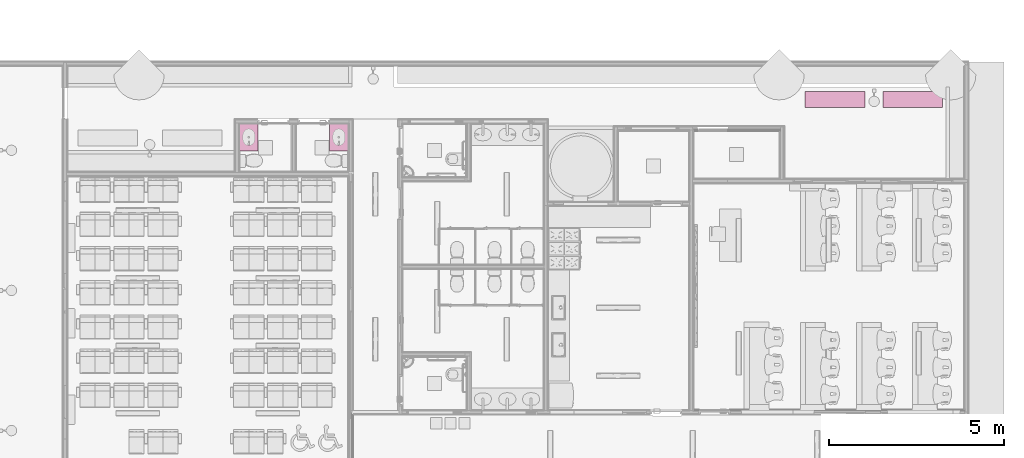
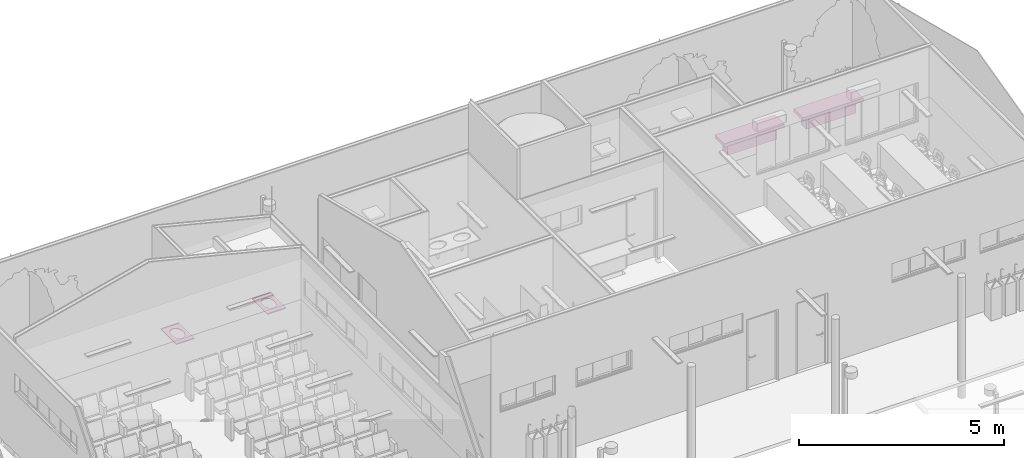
# One storey, part 153 of 155: 4 furnishings.
"""IFC2X3 building model written with IfcOpenShell, lengths in metres."""

import ifcopenshell
import ifcopenshell.guid

model = None  # the IFC model being written
_history = None  # IfcOwnerHistory: only IFC2X3 demands one
_inside = {}  # id of a spatial element -> (the spatial element, [elements in it])
_under = {}  # id of a project, library or spatial element -> (it, [spatial elements below it])
_declared = {}  # id of a project -> (the project, [libraries it declares])
_typed = {}  # id of a type object -> (the type object, [elements of that type])
_made_of = {}  # id of a material, layer set ... -> (it, [elements and type objects made of it])


def new_model(schema):
    """Start an empty IFC model of exactly this schema.

    Asked for "IFC4X3", IfcOpenShell would pick the latest addendum, in which some entities
    have other attributes; the version numbers below select the first issue.
    IFC2X3 requires an IfcOwnerHistory on every rooted entity: one is made here for all.
    """
    global model, _history
    if schema == "IFC4X3":
        model = ifcopenshell.file(schema_version=(4, 3, 0, 0))
    else:
        model = ifcopenshell.file(schema=schema)
    _inside.clear()
    _under.clear()
    _declared.clear()
    _typed.clear()
    _made_of.clear()
    _history = None
    if model.schema == "IFC2X3":
        org = make("IfcOrganization", Name="unknown")
        user = make(
            "IfcPersonAndOrganization",
            ThePerson=make("IfcPerson", FamilyName="unknown"),
            TheOrganization=org,
        )
        app = make(
            "IfcApplication",
            ApplicationDeveloper=org,
            Version="unknown",
            ApplicationFullName="unknown",
            ApplicationIdentifier="unknown",
        )
        _history = make(
            "IfcOwnerHistory",
            OwningUser=user,
            OwningApplication=app,
            ChangeAction="ADDED",
            CreationDate=0,
        )
    return model


def make(cls, **values):
    """One entity of the class cls with the attributes given. An attribute that is None is left unset."""
    return model.create_entity(
        cls, **{name: value for name, value in values.items() if value is not None}
    )


def entity(cls, *values):
    """Any entity or typed value of the class cls, its attributes in the order of the schema. None: left unset."""
    e = model.create_entity(cls)
    for i, value in enumerate(values):
        if value is not None:
            e[i] = value
    return e


def rooted(cls, **values):
    """An entity with a GlobalId (a new one), such as an element, a storey or a relation."""
    return make(cls, GlobalId=ifcopenshell.guid.new(), OwnerHistory=_history, **values)


def si_unit(unit_type, name, prefix=None):
    """IfcSIUnit, for example si_unit("LENGTHUNIT", "METRE", prefix="MILLI")."""
    return make("IfcSIUnit", UnitType=unit_type, Prefix=prefix, Name=name)


def converted_unit(unit_type, name, factor, base, dimensions=None, offset=None):
    """IfcConversionBasedUnit, such as the inch: factor (a typed value) times the base unit."""
    return make(
        "IfcConversionBasedUnit"
        if offset is None
        else "IfcConversionBasedUnitWithOffset",
        ConversionOffset=offset,
        Dimensions=None
        if dimensions is None
        else entity("IfcDimensionalExponents", *dimensions),
        UnitType=unit_type,
        Name=name,
        ConversionFactor=make(
            "IfcMeasureWithUnit", ValueComponent=factor, UnitComponent=base
        ),
    )


def derived_unit(unit_type, elements):
    """IfcDerivedUnit: a product of units, each with its exponent."""
    return make(
        "IfcDerivedUnit",
        Elements=[
            make("IfcDerivedUnitElement", Unit=unit, Exponent=power)
            for unit, power in elements
        ],
        UnitType=unit_type,
    )


def assignment(units):
    """IfcUnitAssignment: the units of a project."""
    return None if units is None else make("IfcUnitAssignment", Units=units)


def point(xyz):
    """IfcCartesianPoint."""
    return None if xyz is None else make("IfcCartesianPoint", Coordinates=xyz)


def direction(xyz):
    """IfcDirection."""
    return None if xyz is None else make("IfcDirection", DirectionRatios=xyz)


def frame(location, z_axis=None, x_axis=None):
    """IfcAxis2Placement3D, a coordinate frame: its origin and axes. An axis left out is left unset."""
    return make(
        "IfcAxis2Placement3D",
        Location=point(location),
        Axis=direction(z_axis),
        RefDirection=direction(x_axis),
    )


def frame_2d(location, x_axis=None):
    """IfcAxis2Placement2D, a coordinate frame in the plane: its origin and x axis."""
    return make(
        "IfcAxis2Placement2D", Location=point(location), RefDirection=direction(x_axis)
    )


def origin():
    """The frame at (0, 0, 0) with its axes left unset."""
    return frame((0.0, 0.0, 0.0))


def origin_2d_with_axis():
    """The frame at (0, 0) in the plane with the x axis (1, 0) written out."""
    return frame_2d((0.0, 0.0), x_axis=(1.0, 0.0))


def place(relative_to, where):
    """IfcLocalPlacement: puts the frame where relative to a parent placement (None: the world)."""
    return make(
        "IfcLocalPlacement", PlacementRelTo=relative_to, RelativePlacement=where
    )


def context(
    kind, dimensions, precision=None, world=None, true_north=None, identifier=None
):
    """IfcGeometricRepresentationContext, for example the 3D "Model" context."""
    return make(
        "IfcGeometricRepresentationContext",
        ContextIdentifier=identifier,
        ContextType=kind,
        CoordinateSpaceDimension=dimensions,
        Precision=precision,
        WorldCoordinateSystem=world,
        TrueNorth=true_north,
    )


def subcontext(parent, identifier, kind, view, scale=None):
    """IfcGeometricRepresentationSubContext, for example "Body" below "Model"."""
    return make(
        "IfcGeometricRepresentationSubContext",
        ContextIdentifier=identifier,
        ContextType=kind,
        ParentContext=parent,
        TargetScale=scale,
        TargetView=view,
    )


def project(units=None, contexts=None):
    """IfcProject with its units and contexts."""
    return rooted(
        "IfcProject",
        Name="project",
        RepresentationContexts=contexts,
        UnitsInContext=assignment(units),
    )


def spatial(cls, under=None, at=None, **own):
    """A site, building, storey or space (cls), placed at a placement, below another one or the project."""
    s = rooted(cls, ObjectPlacement=at, **own)
    if under is not None:
        _under.setdefault(under.id(), (under, []))[1].append(s)
    return s


def polyline(points):
    """IfcPolyline through the points."""
    return make("IfcPolyline", Points=[point(p) for p in points])


def profile(cls, at=None, kind="AREA", **sizes):
    """A parametric profile (cls). Its sizes go by their IFC names, for example OverallWidth=200.0."""
    return make(cls, ProfileType=kind, Position=at, **sizes)


def rectangle(**sizes):
    """IfcRectangleProfileDef."""
    return profile("IfcRectangleProfileDef", **sizes)


def outline(outer, holes=None, kind="AREA"):
    """IfcArbitraryClosedProfileDef: a profile drawn as a closed curve; with holes, ...WithVoids."""
    if holes is None:
        return make("IfcArbitraryClosedProfileDef", ProfileType=kind, OuterCurve=outer)
    return make(
        "IfcArbitraryProfileDefWithVoids",
        ProfileType=kind,
        OuterCurve=outer,
        InnerCurves=holes,
    )


def extrude(swept, where, along, depth):
    """IfcExtrudedAreaSolid: the profile swept, set in the frame where, extruded along a direction by depth."""
    return make(
        "IfcExtrudedAreaSolid",
        SweptArea=swept,
        Position=where,
        ExtrudedDirection=direction(along),
        Depth=depth,
    )


def shape(context_of_items, identifier, shape_type, items):
    """IfcShapeRepresentation: the items that make up one representation, for example the "Body"."""
    return make(
        "IfcShapeRepresentation",
        ContextOfItems=context_of_items,
        RepresentationIdentifier=identifier,
        RepresentationType=shape_type,
        Items=items,
    )


def source(mapping_origin, context_of_items, identifier, shape_type, items):
    """IfcRepresentationMap: a shape defined once, which mapped items show again and again."""
    return make(
        "IfcRepresentationMap",
        MappingOrigin=mapping_origin,
        MappedRepresentation=shape(context_of_items, identifier, shape_type, items),
    )


def transform(
    local_origin,
    x_axis=None,
    y_axis=None,
    z_axis=None,
    scale=None,
    scale2=None,
    scale3=None,
    uniform=True,
):
    """IfcCartesianTransformationOperator3D, or its non-uniform kind. x_axis, y_axis, z_axis: its Axis1, 2, 3."""
    if uniform:
        return make(
            "IfcCartesianTransformationOperator3D",
            Axis1=direction(x_axis),
            Axis2=direction(y_axis),
            LocalOrigin=point(local_origin),
            Scale=scale,
            Axis3=direction(z_axis),
        )
    return make(
        "IfcCartesianTransformationOperator3DnonUniform",
        Axis1=direction(x_axis),
        Axis2=direction(y_axis),
        LocalOrigin=point(local_origin),
        Scale=scale,
        Axis3=direction(z_axis),
        Scale2=scale2,
        Scale3=scale3,
    )


def mapped(mapping_source, mapping_target):
    """IfcMappedItem: shows the shape of a source again, moved by a transform."""
    return make(
        "IfcMappedItem", MappingSource=mapping_source, MappingTarget=mapping_target
    )


def material(Name=None, Category=None):
    """IfcMaterial."""
    return make("IfcMaterial", Name=Name, Category=Category)


def made_of(thing, what):
    """Note that an element or type object is made of a material, layer set ...; save() writes the relation."""
    if what is not None:
        _made_of.setdefault(what.id(), (what, []))[1].append(thing)
    return thing


def type_object(cls, material=None, **own):
    """A type object (cls), such as IfcWallType, which elements share."""
    return made_of(rooted(cls, **own), material)


def type_shapes(of_type, sources):
    """Give a type object the sources (RepresentationMaps) that its elements show as mapped items."""
    of_type.RepresentationMaps = sources


def element(
    cls,
    number,
    at=None,
    inside=None,
    cuts=None,
    type_object=None,
    material=None,
    context=None,
    identifier="Body",
    shape_type=None,
    held_by="IfcProductDefinitionShape",
    body=None,
    shapes=None,
    **own,
):
    """One element of the class cls, such as IfcWall. Its Tag is "e" and its number.

    at: its placement. inside: the storey or other place that contains it. cuts: it is an
    opening in that element (IfcRelVoidsElement). A single representation is given by context,
    identifier, shape_type and body (its items); several are given by shapes. held_by: the class
    of the entity that holds the representations. save() writes the other relations.
    """
    e = rooted(cls, Tag="e%d" % number, ObjectPlacement=at, **own)
    if body is not None:
        shapes = [shape(context, identifier, shape_type, body)]
    if shapes is not None:
        e.Representation = make(held_by, Representations=shapes)
    if inside is not None:
        _inside.setdefault(inside.id(), (inside, []))[1].append(e)
    if cuts is not None:
        rooted(
            "IfcRelVoidsElement", RelatingBuildingElement=cuts, RelatedOpeningElement=e
        )
    if type_object is not None:
        _typed.setdefault(type_object.id(), (type_object, []))[1].append(e)
    return made_of(e, material)


def aggregate(whole, parts):
    """IfcRelAggregates: a whole, such as a stair, and the parts it consists of."""
    return rooted("IfcRelAggregates", RelatingObject=whole, RelatedObjects=parts)


def save(model, path):
    """Write the relations noted so far, then the file.

    IfcRelAggregates (storeys below a building ...), IfcRelContainedInSpatialStructure (elements
    in a storey), IfcRelDefinesByType, IfcRelAssociatesMaterial and IfcRelDeclares: one each for
    every whole, place, type object, material and project.
    """
    for whole, parts in _under.values():
        aggregate(whole, parts)
    for where, things in _inside.values():
        rooted(
            "IfcRelContainedInSpatialStructure",
            RelatedElements=things,
            RelatingStructure=where,
        )
    for kind, things in _typed.values():
        rooted("IfcRelDefinesByType", RelatedObjects=things, RelatingType=kind)
    for what, things in _made_of.values():
        rooted("IfcRelAssociatesMaterial", RelatedObjects=things, RelatingMaterial=what)
    for by, libraries in _declared.values():
        rooted("IfcRelDeclares", RelatingContext=by, RelatedDefinitions=libraries)
    model.write(path)


model = new_model("IFC2X3")

# Units and contexts
model_context = context("Model", 3, precision=1e-05, world=origin(), true_north=direction((6.12303176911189e-17, 1.0)))
body_context = subcontext(model_context, "Body", "Model", "MODEL_VIEW")
ifc_project = project(units=[si_unit("LENGTHUNIT", "METRE"), si_unit("AREAUNIT", "SQUARE_METRE"), si_unit("VOLUMEUNIT", "CUBIC_METRE"), converted_unit("PLANEANGLEUNIT", "DEGREE", entity("IfcRatioMeasure", 0.0174532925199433), si_unit("PLANEANGLEUNIT", "RADIAN"), dimensions=[0, 0, 0, 0, 0, 0, 0]), si_unit("MASSUNIT", "GRAM", prefix="KILO"), derived_unit("MASSDENSITYUNIT", [(si_unit("MASSUNIT", "GRAM", prefix="KILO"), 1), (si_unit("LENGTHUNIT", "METRE"), -3)]), si_unit("TIMEUNIT", "SECOND"), si_unit("FREQUENCYUNIT", "HERTZ"), si_unit("THERMODYNAMICTEMPERATUREUNIT", "DEGREE_CELSIUS"), derived_unit("THERMALTRANSMITTANCEUNIT", [(si_unit("MASSUNIT", "GRAM", prefix="KILO"), 1), (si_unit("THERMODYNAMICTEMPERATUREUNIT", "KELVIN"), -1), (si_unit("TIMEUNIT", "SECOND"), -3)]), derived_unit("VOLUMETRICFLOWRATEUNIT", [(si_unit("LENGTHUNIT", "METRE"), 3), (si_unit("TIMEUNIT", "SECOND"), -1)]), si_unit("ELECTRICCURRENTUNIT", "AMPERE"), si_unit("ELECTRICVOLTAGEUNIT", "VOLT"), si_unit("POWERUNIT", "WATT"), si_unit("FORCEUNIT", "NEWTON", prefix="KILO"), si_unit("ILLUMINANCEUNIT", "LUX"), si_unit("LUMINOUSFLUXUNIT", "LUMEN"), si_unit("LUMINOUSINTENSITYUNIT", "CANDELA"), derived_unit("USERDEFINED", [(si_unit("MASSUNIT", "GRAM", prefix="KILO"), -1), (si_unit("LENGTHUNIT", "METRE"), -2), (si_unit("TIMEUNIT", "SECOND"), 3), (si_unit("LUMINOUSFLUXUNIT", "LUMEN"), 1)]), derived_unit("LINEARVELOCITYUNIT", [(si_unit("LENGTHUNIT", "METRE"), 1), (si_unit("TIMEUNIT", "SECOND"), -1)]), si_unit("PRESSUREUNIT", "PASCAL"), derived_unit("USERDEFINED", [(si_unit("LENGTHUNIT", "METRE"), -2), (si_unit("MASSUNIT", "GRAM", prefix="KILO"), 1), (si_unit("TIMEUNIT", "SECOND"), -2)])], contexts=[model_context])

# Site, building, storey, space
site_placement = place(None, frame((26.9889013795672, -17.5624287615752, 0.0)))
site = spatial("IfcSite", under=ifc_project, at=site_placement, Name="Default", CompositionType="ELEMENT")
building_placement = place(site_placement, origin())
building = spatial("IfcBuilding", under=site, at=building_placement, Name="C. C. L. Monsenhor Antônio Sampaio", CompositionType="ELEMENT")
storey_placement = place(building_placement, frame((0.0, 0.0, 1.19999999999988)))
storey = spatial("IfcBuildingStorey", under=building, at=storey_placement, Name="Nível 1.2", CompositionType="ELEMENT", Elevation=1.19999999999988)
space_1_placement = place(storey_placement, origin())
space_1 = spatial("IfcSpace", under=storey, at=space_1_placement, Name="99", CompositionType="ELEMENT", InteriorOrExteriorSpace="INTERNAL")

# Furnishing
furniture_type_1 = type_object("IfcFurnitureType", Name="Bancada_50x320 2")
shared_shape_1 = source(origin(), body_context, "Body", "SweptSolid", [
    extrude(outline(polyline([(-0.380664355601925, -0.260003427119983), (0.380664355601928, -0.260003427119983), (0.380664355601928, 0.260003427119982), (-0.380664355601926, 0.260003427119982), (-0.380664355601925, -0.260003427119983)]), holes=[polyline([(0.218619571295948, 0.0), (0.213324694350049, -0.0349403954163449), (0.197477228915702, -0.0686486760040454), (0.171352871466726, -0.0996070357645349), (0.135917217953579, -0.125999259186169), (0.0928497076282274, -0.146158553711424), (0.0443966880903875, -0.158790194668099), (-0.006835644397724, -0.163091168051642), (-0.0580679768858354, -0.158790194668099), (-0.106520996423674, -0.146158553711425), (-0.149588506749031, -0.12599925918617), (-0.185024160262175, -0.0996070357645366), (-0.211148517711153, -0.0686486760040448), (-0.226995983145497, -0.0349403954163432), (-0.232290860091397, 0.0), (-0.226995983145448, 0.0349403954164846), (-0.211148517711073, 0.0686486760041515), (-0.185024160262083, 0.0996070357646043), (-0.149588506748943, 0.125999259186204), (-0.10652099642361, 0.146158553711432), (-0.0580679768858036, 0.158790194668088), (-0.00683564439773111, 0.163091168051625), (0.0443966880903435, 0.158790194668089), (0.0928497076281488, 0.146158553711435), (0.135917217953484, 0.125999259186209), (0.171352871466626, 0.0996070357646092), (0.197477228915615, 0.0686486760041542), (0.213324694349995, 0.0349403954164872), (0.218619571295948, 0.0)])]), frame((-6.2505557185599, -8.98755671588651, 2.07999999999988), z_axis=(0.0, 0.0, 1.0), x_axis=(0.0, -1.0, 0.0)), (0.0, 0.0, 1.0), 0.0200000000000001),
    extrude(rectangle(XDim=0.761328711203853, YDim=0.0199999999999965, at=frame_2d((5.55111512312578e-16, 5.41233724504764e-16), x_axis=(1.0, 0.0))), frame((-6.00055229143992, -8.98755671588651, 2.09999999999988), z_axis=(0.0, 0.0, 1.0), x_axis=(0.0, -1.0, 0.0)), (0.0, 0.0, 1.0), 0.00999999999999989),
    extrude(rectangle(XDim=0.500006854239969, YDim=0.0199999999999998, at=frame_2d((-5.55111512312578e-16, 5.41233724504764e-16), x_axis=(1.0, 0.0))), frame((-6.2605557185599, -8.61689236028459, 2.09999999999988)), (0.0, 0.0, 1.0), 0.00999999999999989),
    extrude(rectangle(XDim=0.500006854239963, YDim=0.0200000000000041, at=frame_2d((-5.27355936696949e-16, -5.41233724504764e-16), x_axis=(1.0, 0.0))), frame((-6.2605557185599, -9.35822107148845, 2.09999999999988)), (0.0, 0.0, 1.0), 0.00999999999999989),
])
type_shapes(furniture_type_1, [shared_shape_1])
furnishing_1_placement = place(space_1_placement, frame((0.0, 0.0, -1.19999999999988)))
element("IfcFurnishingElement", 1, at=furnishing_1_placement, inside=space_1, type_object=furniture_type_1, Name="Bancada1:Bancada_50x320 2", ObjectType="Bancada_50x320 2", context=body_context, shape_type="MappedRepresentation", body=[
    mapped(shared_shape_1, transform((0.0, 0.0, 0.0), scale=1.0)),
])

# Space
space_2_placement = place(storey_placement, origin())
space_2 = spatial("IfcSpace", under=storey, at=space_2_placement, Name="98", CompositionType="ELEMENT", InteriorOrExteriorSpace="INTERNAL")

# Furnishing
furniture_type_2 = type_object("IfcFurnitureType", Name="Bancada_50x320 2")
shared_shape_2 = source(origin(), body_context, "Body", "SweptSolid", [
    extrude(outline(polyline([(-0.380664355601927, -0.260003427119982), (0.380664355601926, -0.260003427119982), (0.380664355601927, 0.260003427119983), (-0.380664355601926, 0.260003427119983), (-0.380664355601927, -0.260003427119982)]), holes=[polyline([(-0.232290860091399, 0.0), (-0.226995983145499, 0.0349403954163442), (-0.211148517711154, 0.0686486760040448), (-0.185024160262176, 0.0996070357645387), (-0.149588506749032, 0.125999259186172), (-0.106520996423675, 0.146158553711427), (-0.0580679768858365, 0.1587901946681), (-0.00683564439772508, 0.163091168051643), (0.0443966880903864, 0.158790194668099), (0.0928497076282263, 0.146158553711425), (0.135917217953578, 0.125999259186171), (0.171352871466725, 0.099607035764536), (0.197477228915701, 0.0686486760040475), (0.213324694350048, 0.034940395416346), (0.218619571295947, 0.0), (0.213324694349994, -0.0349403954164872), (0.197477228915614, -0.0686486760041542), (0.171352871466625, -0.0996070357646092), (0.135917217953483, -0.125999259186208), (0.0928497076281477, -0.146158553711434), (0.0443966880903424, -0.158790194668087), (-0.00683564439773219, -0.163091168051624), (-0.0580679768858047, -0.158790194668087), (-0.106520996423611, -0.146158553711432), (-0.149588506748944, -0.125999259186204), (-0.185024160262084, -0.0996070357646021), (-0.211148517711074, -0.0686486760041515), (-0.226995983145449, -0.0349403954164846), (-0.232290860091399, 0.0)])]), frame((-8.82054886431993, -8.98755671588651, 2.07999999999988), z_axis=(0.0, 0.0, 1.0), x_axis=(0.0, -1.0, 0.0)), (0.0, 0.0, 1.0), 0.0200000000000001),
    extrude(rectangle(XDim=0.0199999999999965, YDim=0.761328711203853, at=frame_2d((5.41233724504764e-16, -5.55111512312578e-16), x_axis=(1.0, 0.0))), frame((-9.07055229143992, -8.98755671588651, 2.09999999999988), z_axis=(0.0, 0.0, 1.0), x_axis=(-1.0, 0.0, 0.0)), (0.0, 0.0, 1.0), 0.00999999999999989),
    extrude(rectangle(XDim=0.0199999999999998, YDim=0.500006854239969, at=frame_2d((-5.41233724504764e-16, -5.55111512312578e-16), x_axis=(1.0, 0.0))), frame((-8.81054886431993, -8.61689236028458, 2.09999999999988), z_axis=(0.0, 0.0, 1.0), x_axis=(0.0, 1.0, 0.0)), (0.0, 0.0, 1.0), 0.00999999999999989),
    extrude(rectangle(XDim=0.0200000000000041, YDim=0.500006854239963, at=frame_2d((-5.42101086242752e-16, 5.27355936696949e-16), x_axis=(1.0, 0.0))), frame((-8.81054886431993, -9.35822107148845, 2.09999999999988), z_axis=(0.0, 0.0, 1.0), x_axis=(0.0, 1.0, 0.0)), (0.0, 0.0, 1.0), 0.00999999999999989),
])
type_shapes(furniture_type_2, [shared_shape_2])
furnishing_2_placement = place(space_2_placement, frame((0.0, 0.0, -1.19999999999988)))
element("IfcFurnishingElement", 2, at=furnishing_2_placement, inside=space_2, type_object=furniture_type_2, Name="Bancada1:Bancada_50x320 2", ObjectType="Bancada_50x320 2", context=body_context, shape_type="MappedRepresentation", body=[
    mapped(shared_shape_2, transform((0.0, 0.0, 0.0), scale=1.0)),
])

# Space
space_3_placement = place(storey_placement, origin())
space_3 = spatial("IfcSpace", under=storey, at=space_3_placement, Name="118", CompositionType="ELEMENT", InteriorOrExteriorSpace="INTERNAL")

# Furnishings
ifc_material = material(Name="Concrete")
furniture_type_3 = type_object("IfcFurnitureType", Name="Concrete_Bench_7009", material=ifc_material)
shared_shape_3 = source(origin(), body_context, "Body", "SweptSolid", [
    extrude(rectangle(XDim=0.254, YDim=1.3952, at=origin_2d_with_axis()), frame((0.849999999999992, 0.0, 0.0), z_axis=(0.0, 0.0, 1.0), x_axis=(0.0, 1.0, 0.0)), (0.0, 0.0, 1.0), 0.3556),
    extrude(rectangle(XDim=0.4572, YDim=1.7, at=origin_2d_with_axis()), frame((0.849999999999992, 0.0, 0.355599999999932), z_axis=(0.0, 0.0, 1.0), x_axis=(0.0, 1.0, 0.0)), (0.0, 0.0, 1.0), 0.1016),
])
type_shapes(furniture_type_3, [shared_shape_3])
for number, where, name in (
    (3, (7.05944770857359, -7.90306634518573, 0.0), "Banco Concreto:Concrete_Bench_7009"),
    (4, (9.27944770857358, -7.90439236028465, 0.0), "Banco Concreto:Concrete_Bench_7009"),
):
    element("IfcFurnishingElement", number, at=place(space_3_placement, frame(where)), inside=space_3, type_object=furniture_type_3, material=ifc_material, Name=name, ObjectType="Concrete_Bench_7009", context=body_context, shape_type="MappedRepresentation", body=[
        mapped(shared_shape_3, transform((0.0, 0.0, 0.0), scale=1.0)),
    ])

save(model, "model.ifc")
